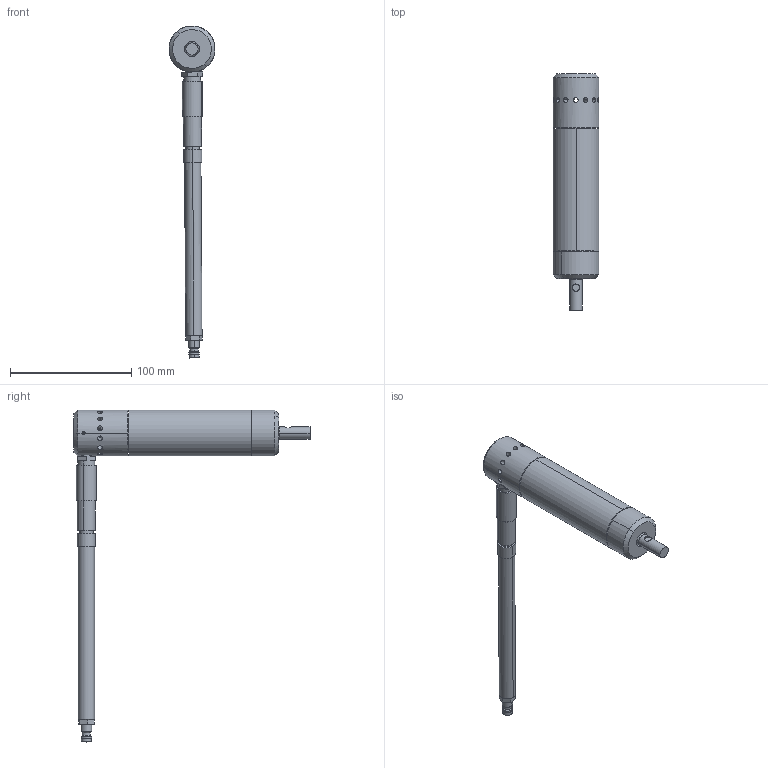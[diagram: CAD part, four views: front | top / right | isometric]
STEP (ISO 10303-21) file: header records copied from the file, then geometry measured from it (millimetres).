
FILE_DESCRIPTION (( 'STEP AP214' ), '1' );
FILE_NAME ('PLR12.STEP', '2018-11-30T13:19:57', ( '' ), ( '' ), 'SwSTEP 2.0', 'SolidWorks 2018', '' );
FILE_SCHEMA (( 'AUTOMOTIVE_DESIGN' ));
Length unit declared in the file: millimetre
Products named in the file (11): Kopie von Deckel PLR 11^PLR12; Kopie von Stator PLR 11^PLR12; Kopie von Rotor PLR 11^PLR12; Kopie von Motorblock PLR 11^PLR12; PLR12; Halterohr Standart; Rändelschraube; Schnellkupplung; Halterohr; Kopie von Distanzring PLR 11^PLR12; Kopie von Verschluss PLR 11^PLR12
Assembly tree (10 placements, depth 3):
  PLR12
    Kopie von Motorblock PLR 11^PLR12
    Kopie von Rotor PLR 11^PLR12
    Kopie von Stator PLR 11^PLR12
    Kopie von Deckel PLR 11^PLR12
    Kopie von Verschluss PLR 11^PLR12
    Kopie von Distanzring PLR 11^PLR12
    Halterohr Standart
      Halterohr
      Schnellkupplung
      Rändelschraube
Bounding box: 38 x 195 x 274.27 mm (x, y, z)
Volume: 205906.2 mm3; surface area: 76067.6 mm2
Topology: 9 solids, 9 shells, 216 faces, 461 edges, 285 vertices
Faces by surface type: cylinder 130, plane 66, cone 18, torus 2
Entity records: 7391 total; most frequent: CARTESIAN_POINT 2000, DIRECTION 1067, ORIENTED_EDGE 918, EDGE_CURVE 459, AXIS2_PLACEMENT_3D 442, VERTEX_POINT 285, EDGE_LOOP 274, FACE_OUTER_BOUND 216
